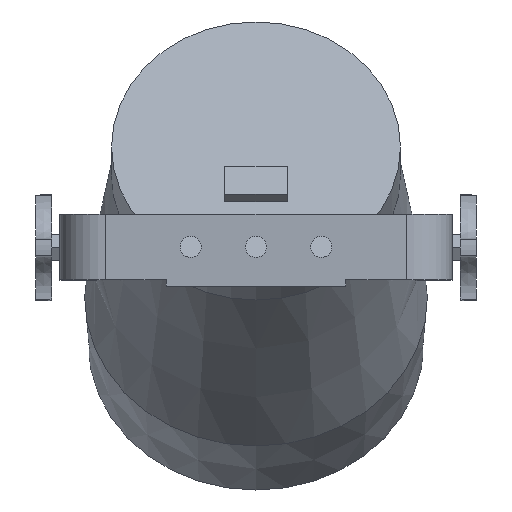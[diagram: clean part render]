
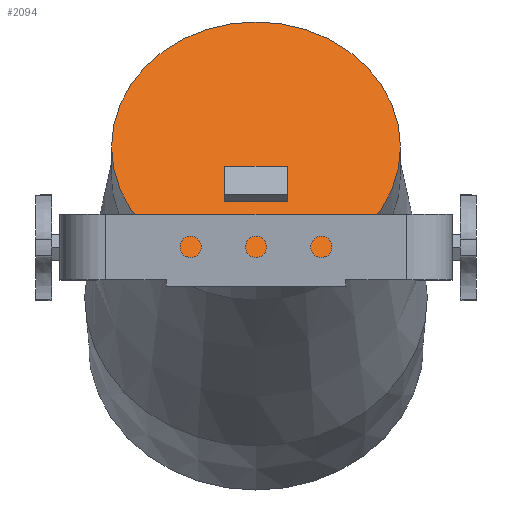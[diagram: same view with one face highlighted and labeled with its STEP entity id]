
A CAD part, top view. The second image highlights one B-rep face of the part: STEP entity #2094.
In plain terms, the highlighted planar face has unit normal (0, 0.5, 0.866) as drawn and (0, 1, 0) by its records, which use the part's own axes.
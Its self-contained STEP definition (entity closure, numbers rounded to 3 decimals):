
#104=FACE_BOUND('',#416,.T.);
#178=PLANE('',#2310);
#288=FACE_OUTER_BOUND('',#415,.T.);
#415=EDGE_LOOP('',(#1914,#1915));
#416=EDGE_LOOP('',(#1916,#1917,#1918,#1919));
#587=LINE('',#3552,#769);
#591=LINE('',#3560,#773);
#594=LINE('',#3566,#776);
#597=LINE('',#3571,#779);
#769=VECTOR('',#2823,10.);
#773=VECTOR('',#2829,10.);
#776=VECTOR('',#2834,10.);
#779=VECTOR('',#2839,10.);
#860=CIRCLE('',#2311,88.472);
#861=CIRCLE('',#2312,88.472);
#1044=VERTEX_POINT('',#3550);
#1045=VERTEX_POINT('',#3551);
#1048=VERTEX_POINT('',#3559);
#1050=VERTEX_POINT('',#3565);
#1063=VERTEX_POINT('',#3744);
#1064=VERTEX_POINT('',#3745);
#1329=EDGE_CURVE('',#1044,#1045,#587,.T.);
#1333=EDGE_CURVE('',#1045,#1048,#591,.T.);
#1336=EDGE_CURVE('',#1048,#1050,#594,.T.);
#1339=EDGE_CURVE('',#1050,#1044,#597,.T.);
#1356=EDGE_CURVE('',#1063,#1064,#860,.T.);
#1357=EDGE_CURVE('',#1064,#1063,#861,.T.);
#1914=ORIENTED_EDGE('',*,*,#1356,.T.);
#1915=ORIENTED_EDGE('',*,*,#1357,.T.);
#1916=ORIENTED_EDGE('',*,*,#1329,.T.);
#1917=ORIENTED_EDGE('',*,*,#1333,.T.);
#1918=ORIENTED_EDGE('',*,*,#1336,.T.);
#1919=ORIENTED_EDGE('',*,*,#1339,.T.);
#2094=ADVANCED_FACE('',(#288,#104),#178,.T.);
#2310=AXIS2_PLACEMENT_3D('',#3743,#2875,#2876);
#2311=AXIS2_PLACEMENT_3D('',#3746,#2877,#2878);
#2312=AXIS2_PLACEMENT_3D('',#3747,#2879,#2880);
#2823=DIRECTION('',(0.,0.,-1.));
#2829=DIRECTION('',(1.,0.,0.));
#2834=DIRECTION('',(0.,0.,1.));
#2839=DIRECTION('',(-1.,0.,0.));
#2875=DIRECTION('center_axis',(0.,1.,0.));
#2876=DIRECTION('ref_axis',(0.,0.,1.));
#2877=DIRECTION('center_axis',(0.,1.,0.));
#2878=DIRECTION('ref_axis',(1.,0.,0.));
#2879=DIRECTION('center_axis',(0.,1.,0.));
#2880=DIRECTION('ref_axis',(1.,0.,0.));
#3550=CARTESIAN_POINT('',(-183.4,250.15,-66.32));
#3551=CARTESIAN_POINT('',(-183.4,250.15,-86.32));
#3552=CARTESIAN_POINT('',(-183.4,250.15,-95.636));
#3559=CARTESIAN_POINT('',(-145.4,250.15,-86.32));
#3560=CARTESIAN_POINT('',(-154.9,250.15,-86.32));
#3565=CARTESIAN_POINT('',(-145.4,250.15,-66.32));
#3566=CARTESIAN_POINT('',(-145.4,250.15,-85.636));
#3571=CARTESIAN_POINT('',(-173.9,250.15,-66.32));
#3743=CARTESIAN_POINT('Origin',(-164.4,250.15,-104.951));
#3744=CARTESIAN_POINT('',(-164.4,250.15,-16.479));
#3745=CARTESIAN_POINT('',(-164.4,250.15,-193.423));
#3746=CARTESIAN_POINT('Origin',(-164.4,250.15,-104.951));
#3747=CARTESIAN_POINT('Origin',(-164.4,250.15,-104.951));
